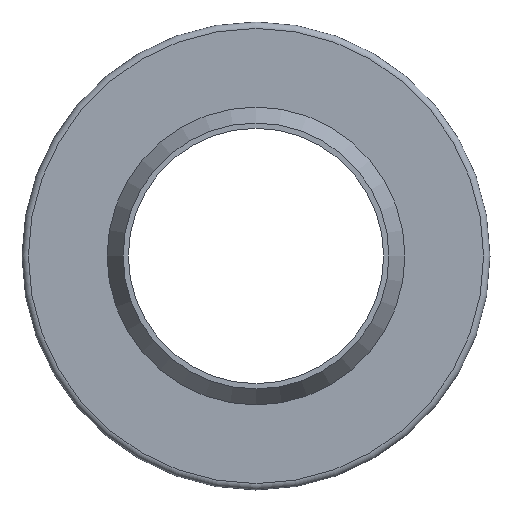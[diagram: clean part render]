
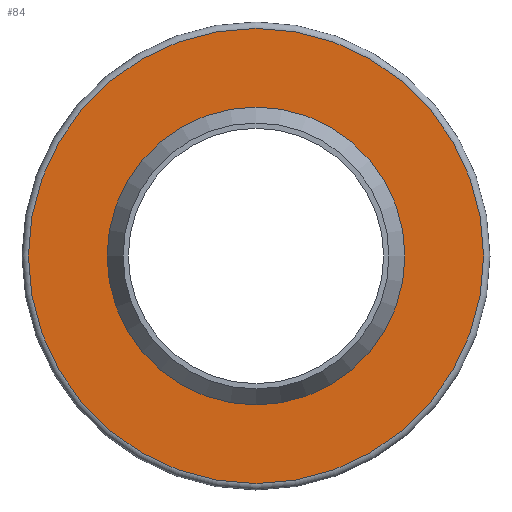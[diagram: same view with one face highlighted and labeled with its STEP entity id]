
A CAD part, left-side view. The second image highlights one B-rep face of the part: STEP entity #84.
In plain terms, the highlighted planar face has unit normal (-1, 0, 0).
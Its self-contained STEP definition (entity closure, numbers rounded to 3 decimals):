
#84=ADVANCED_FACE('',(#117,#118),#119,.T.);
#117=FACE_OUTER_BOUND('',#159,.T.);
#118=FACE_BOUND('',#160,.T.);
#119=PLANE('',#161);
#159=EDGE_LOOP('',(#219));
#160=EDGE_LOOP('',(#220));
#161=AXIS2_PLACEMENT_3D('',#221,#222,#223);
#219=ORIENTED_EDGE('',*,*,#254,.T.);
#220=ORIENTED_EDGE('',*,*,#253,.F.);
#221=CARTESIAN_POINT('',(-3.,7.0,0.0));
#222=DIRECTION('',(-1.0,0.0,0.0));
#223=DIRECTION('',(0.0,0.0,1.0));
#253=EDGE_CURVE('',#276,#276,#277,.T.);
#254=EDGE_CURVE('',#278,#278,#279,.T.);
#276=VERTEX_POINT('',#304);
#277=CIRCLE('',#305,7.0);
#278=VERTEX_POINT('',#306);
#279=CIRCLE('',#307,10.7);
#304=CARTESIAN_POINT('',(-3.,0.0,7.0));
#305=AXIS2_PLACEMENT_3D('',#341,#342,#343);
#306=CARTESIAN_POINT('',(-3.,0.0,10.7));
#307=AXIS2_PLACEMENT_3D('',#344,#345,#346);
#341=CARTESIAN_POINT('',(-3.,0.0,0.0));
#342=DIRECTION('',(-1.0,0.0,0.0));
#343=DIRECTION('',(0.0,0.0,1.0));
#344=CARTESIAN_POINT('',(-3.,0.0,0.0));
#345=DIRECTION('',(-1.0,0.0,0.0));
#346=DIRECTION('',(0.0,0.0,1.0));
